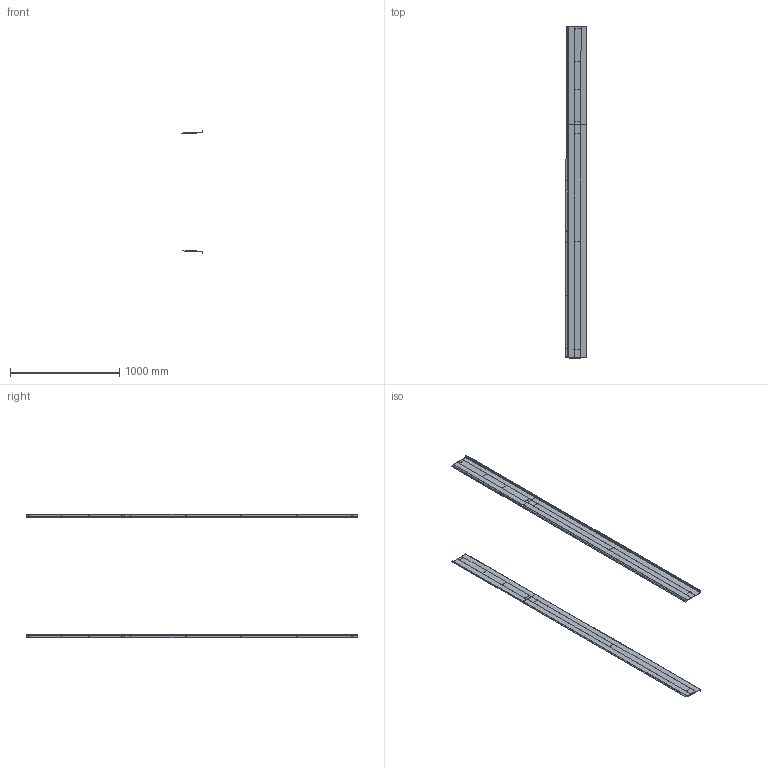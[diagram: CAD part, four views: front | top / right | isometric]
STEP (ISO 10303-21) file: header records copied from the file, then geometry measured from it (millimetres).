
FILE_DESCRIPTION (( 'STEP AP214' ), '1' );
FILE_NAME ('QSTX-6.STEP', '2016-07-28T14:49:29', ( 'BMC' ), ( 'Bard Manufacturing Co., Inc.' ), 'SwSTEP 2.0', 'SolidWorks 2016', '' );
FILE_SCHEMA (( 'AUTOMOTIVE_DESIGN' ));
Length unit declared in the file: inch
Products named in the file (6): 134-252; QSTX-6; 134-255; 134-251; 134-254; 134-256
Assembly tree (8 placements, depth 2):
  QSTX-6
    134-251  x2
    134-252  x2
    134-254
    134-255
    134-256  x2
Bounding box: 194.51 x 3036.21 x 1132.45 mm (x, y, z)
Surface area: 3361411.8 mm2 (no closed solid volume)
Topology: 0 solids, 8 shells, 298 faces, 838 edges, 556 vertices
Faces by surface type: cylinder 182, plane 116
Entity records: 6784 total; most frequent: DIRECTION 1197, CARTESIAN_POINT 1115, ORIENTED_EDGE 1094, EDGE_CURVE 547, AXIS2_PLACEMENT_3D 444, VERTEX_POINT 362, VECTOR 309, LINE 309
